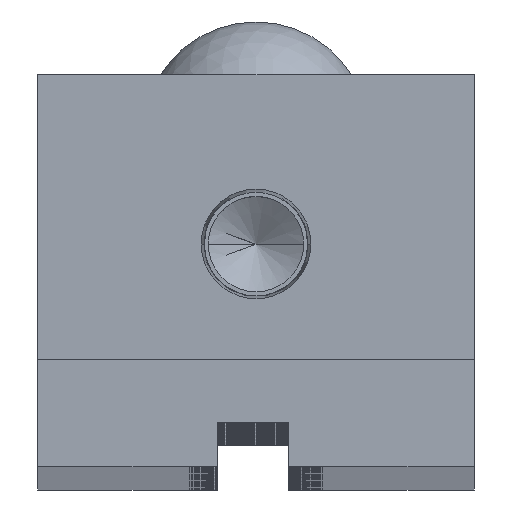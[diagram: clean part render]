
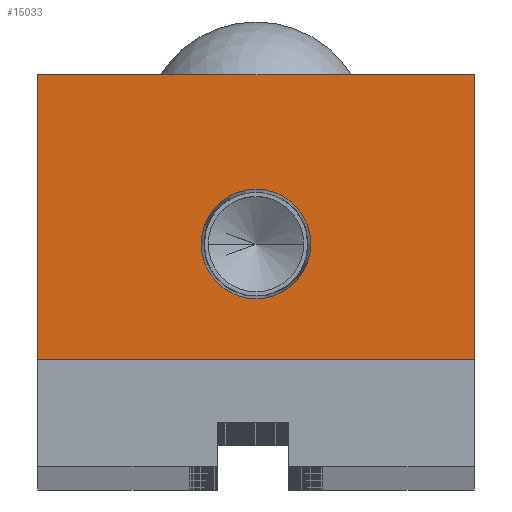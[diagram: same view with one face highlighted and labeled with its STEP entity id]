
A CAD part, top view. The second image highlights one B-rep face of the part: STEP entity #15033.
In plain terms, the highlighted planar face has unit normal (0, 0, 1).
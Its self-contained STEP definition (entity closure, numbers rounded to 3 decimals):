
#495 = VERTEX_POINT ( 'NONE', #14890 ) ;
#941 = DIRECTION ( 'NONE',  ( 0., 1., 0. ) ) ;
#1619 = CARTESIAN_POINT ( 'NONE',  ( -24.5, 0., 0. ) ) ;
#3959 = CARTESIAN_POINT ( 'NONE',  ( 0., 13., 0. ) ) ;
#5008 = VERTEX_POINT ( 'NONE', #24905 ) ;
#5293 = EDGE_CURVE ( 'NONE', #15609, #5008, #26449, .T. ) ;
#6110 = EDGE_LOOP ( 'NONE', ( #24109, #13290, #17980, #13173 ) ) ;
#6191 = DIRECTION ( 'NONE',  ( 1., 0., 0. ) ) ;
#6601 = DIRECTION ( 'NONE',  ( 1., 0., 0. ) ) ;
#7681 = DIRECTION ( 'NONE',  ( 0., 0., 1. ) ) ;
#7691 = CARTESIAN_POINT ( 'NONE',  ( -24.5, 32., 0. ) ) ;
#7848 = EDGE_CURVE ( 'NONE', #5008, #15609, #22114, .T. ) ;
#7960 = LINE ( 'NONE', #16812, #28291 ) ;
#8271 = CARTESIAN_POINT ( 'NONE',  ( -24.5, 32., 0. ) ) ;
#10018 = LINE ( 'NONE', #1619, #30324 ) ;
#11516 = AXIS2_PLACEMENT_3D ( 'NONE', #3959, #22445, #6601 ) ;
#12987 = CARTESIAN_POINT ( 'NONE',  ( 6.154, 13., 0. ) ) ;
#13173 = ORIENTED_EDGE ( 'NONE', *, *, #24107, .T. ) ;
#13290 = ORIENTED_EDGE ( 'NONE', *, *, #32872, .T. ) ;
#13524 = DIRECTION ( 'NONE',  ( -1., 0., 0. ) ) ;
#14890 = CARTESIAN_POINT ( 'NONE',  ( 24.5, 0., 0. ) ) ;
#15033 = ADVANCED_FACE ( 'NONE', ( #19513, #18691 ), #17872, .F. ) ;
#15468 = DIRECTION ( 'NONE',  ( 0., 0., -1. ) ) ;
#15609 = VERTEX_POINT ( 'NONE', #12987 ) ;
#16812 = CARTESIAN_POINT ( 'NONE',  ( 24.5, 32., 0. ) ) ;
#17470 = DIRECTION ( 'NONE',  ( 0., -1., 0. ) ) ;
#17872 = PLANE ( 'NONE',  #23092 ) ;
#17980 = ORIENTED_EDGE ( 'NONE', *, *, #33434, .T. ) ;
#18691 = FACE_OUTER_BOUND ( 'NONE', #6110, .T. ) ;
#19513 = FACE_BOUND ( 'NONE', #26957, .T. ) ;
#20390 = ORIENTED_EDGE ( 'NONE', *, *, #7848, .F. ) ;
#20641 = CARTESIAN_POINT ( 'NONE',  ( 0., 0., 0. ) ) ;
#22114 = CIRCLE ( 'NONE', #11516, 6.154 ) ;
#22445 = DIRECTION ( 'NONE',  ( 0., 0., 1. ) ) ;
#22926 = LINE ( 'NONE', #24704, #29983 ) ;
#23092 = AXIS2_PLACEMENT_3D ( 'NONE', #20641, #15468, #33996 ) ;
#23542 = CARTESIAN_POINT ( 'NONE',  ( 0., 13., 0. ) ) ;
#23612 = AXIS2_PLACEMENT_3D ( 'NONE', #23542, #7681, #26184 ) ;
#24107 = EDGE_CURVE ( 'NONE', #31392, #27111, #33872, .T. ) ;
#24109 = ORIENTED_EDGE ( 'NONE', *, *, #34027, .T. ) ;
#24704 = CARTESIAN_POINT ( 'NONE',  ( 24.5, 0., 0. ) ) ;
#24905 = CARTESIAN_POINT ( 'NONE',  ( -6.154, 13., 0. ) ) ;
#26184 = DIRECTION ( 'NONE',  ( 1., 0., 0. ) ) ;
#26449 = CIRCLE ( 'NONE', #23612, 6.154 ) ;
#26597 = CARTESIAN_POINT ( 'NONE',  ( -24.5, 0., 0. ) ) ;
#26957 = EDGE_LOOP ( 'NONE', ( #30329, #20390 ) ) ;
#27111 = VERTEX_POINT ( 'NONE', #7691 ) ;
#27603 = VECTOR ( 'NONE', #13524, 1000. ) ;
#28291 = VECTOR ( 'NONE', #941, 1000. ) ;
#29983 = VECTOR ( 'NONE', #6191, 1000. ) ;
#30324 = VECTOR ( 'NONE', #17470, 1000. ) ;
#30329 = ORIENTED_EDGE ( 'NONE', *, *, #5293, .F. ) ;
#30585 = CARTESIAN_POINT ( 'NONE',  ( 24.5, 32., 0. ) ) ;
#31151 = VERTEX_POINT ( 'NONE', #26597 ) ;
#31392 = VERTEX_POINT ( 'NONE', #30585 ) ;
#32872 = EDGE_CURVE ( 'NONE', #31151, #495, #22926, .T. ) ;
#33434 = EDGE_CURVE ( 'NONE', #495, #31392, #7960, .T. ) ;
#33872 = LINE ( 'NONE', #8271, #27603 ) ;
#33996 = DIRECTION ( 'NONE',  ( -1., 0., 0. ) ) ;
#34027 = EDGE_CURVE ( 'NONE', #27111, #31151, #10018, .T. ) ;
